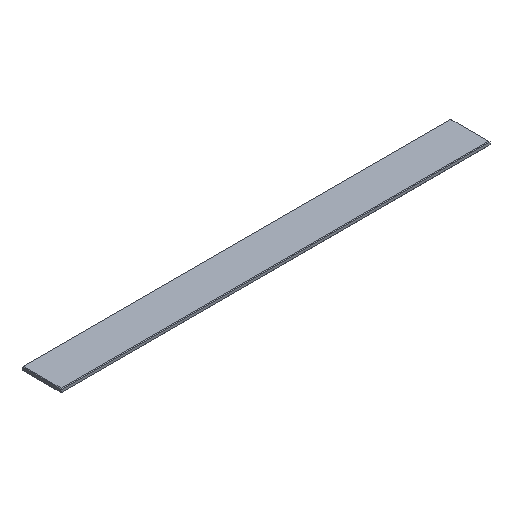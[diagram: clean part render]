
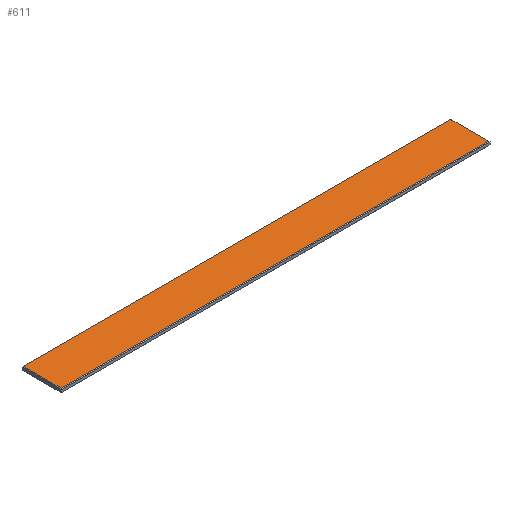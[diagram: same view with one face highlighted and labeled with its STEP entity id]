
A CAD part, isometric view. The second image highlights one B-rep face of the part: STEP entity #611.
In plain terms, the highlighted planar face has unit normal (0, 0, 1).
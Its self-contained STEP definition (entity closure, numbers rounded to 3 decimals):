
#361=DIRECTION('',(-1.,0.,0.));
#362=VECTOR('',#361,667.);
#363=CARTESIAN_POINT('',(333.5,29.5,3.));
#364=LINE('',#363,#362);
#368=DIRECTION('',(0.,1.,0.));
#369=VECTOR('',#368,59.);
#370=CARTESIAN_POINT('',(333.5,-29.5,3.));
#371=LINE('',#370,#369);
#375=DIRECTION('',(1.,0.,0.));
#376=VECTOR('',#375,667.);
#377=CARTESIAN_POINT('',(-333.5,-29.5,3.));
#378=LINE('',#377,#376);
#382=DIRECTION('',(0.,-1.,0.));
#383=VECTOR('',#382,59.);
#384=CARTESIAN_POINT('',(-333.5,29.5,3.));
#385=LINE('',#384,#383);
#400=CARTESIAN_POINT('',(333.5,29.5,3.));
#401=CARTESIAN_POINT('',(-333.5,29.5,3.));
#402=VERTEX_POINT('',#400);
#403=VERTEX_POINT('',#401);
#424=CARTESIAN_POINT('',(-333.5,-29.5,3.));
#425=CARTESIAN_POINT('',(333.5,-29.5,3.));
#426=VERTEX_POINT('',#424);
#427=VERTEX_POINT('',#425);
#599=CARTESIAN_POINT('',(0.,0.,3.));
#600=DIRECTION('',(0.,0.,1.));
#601=DIRECTION('',(1.,0.,0.));
#602=AXIS2_PLACEMENT_3D('',#599,#600,#601);
#603=PLANE('',#602);
#604=ORIENTED_EDGE('',*,*,#482,.F.);
#605=ORIENTED_EDGE('',*,*,#498,.F.);
#607=ORIENTED_EDGE('',*,*,#606,.F.);
#608=ORIENTED_EDGE('',*,*,#592,.F.);
#609=EDGE_LOOP('',(#604,#605,#607,#608));
#610=FACE_OUTER_BOUND('',#609,.F.);
#482=EDGE_CURVE('',#402,#403,#364,.T.);
#498=EDGE_CURVE('',#427,#402,#371,.T.);
#592=EDGE_CURVE('',#403,#426,#385,.T.);
#606=EDGE_CURVE('',#426,#427,#378,.T.);
#611=ADVANCED_FACE('',(#610),#603,.T.);
